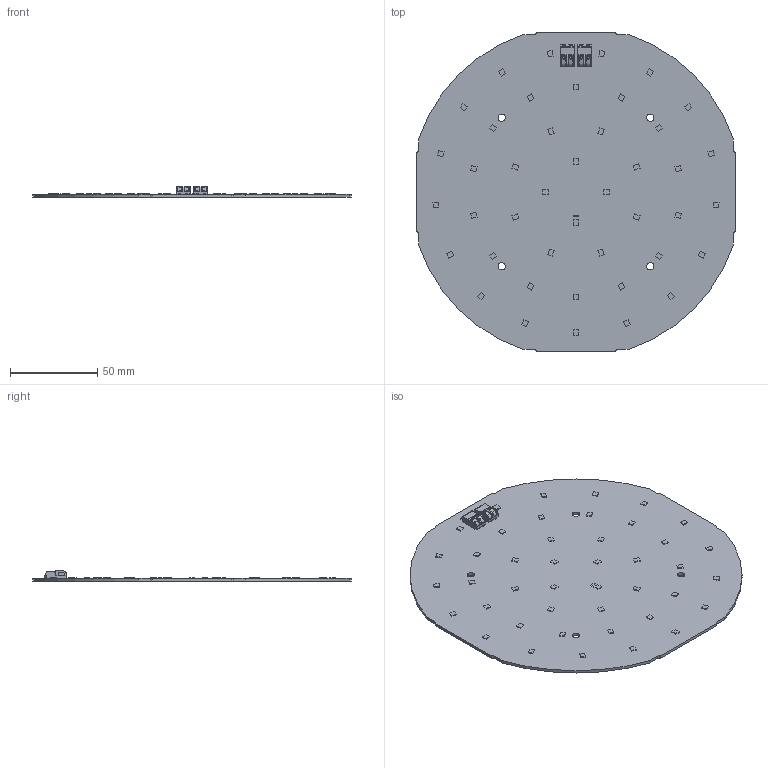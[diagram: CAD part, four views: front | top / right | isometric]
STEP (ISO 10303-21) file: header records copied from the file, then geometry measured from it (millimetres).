
FILE_DESCRIPTION((''),'2;1');
FILE_NAME('16208890_CLE-190-EM-ADV5','2021-11-03T12:24:16',('Bernhard.Fink'),(''),'CREO PARAMETRIC BY PTC INC, 2019164','CREO PARAMETRIC BY PTC INC, 2019164','');
FILE_SCHEMA(('CONFIG_CONTROL_DESIGN'));
Length unit declared in the file: millimetre
Products named in the file (1): 16208890_CLE-190-EM-ADV5
Bounding box: 182 x 182 x 6.15 mm (x, y, z)
Volume: 46435 mm3; surface area: 57763 mm2
Topology: 1 solids, 1 shells, 616 faces, 1686 edges, 1124 vertices
Faces by surface type: plane 484, cylinder 128, sphere 4
Entity records: 21814 total; most frequent: CARTESIAN_POINT 5878, ORIENTED_EDGE 3372, DIRECTION 3154, EDGE_CURVE 1686, VECTOR 1366, LINE 1366, VERTEX_POINT 1124, AXIS2_PLACEMENT_3D 894
